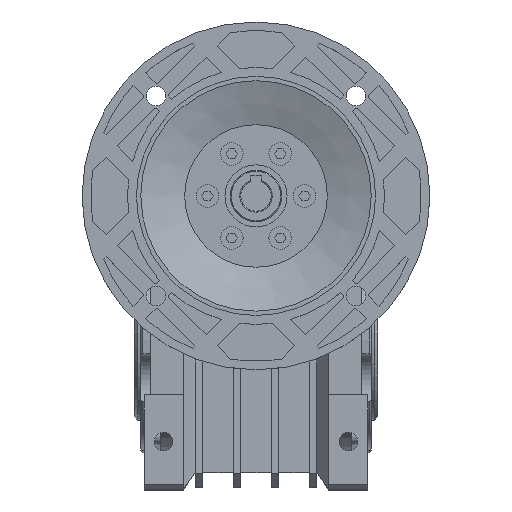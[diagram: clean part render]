
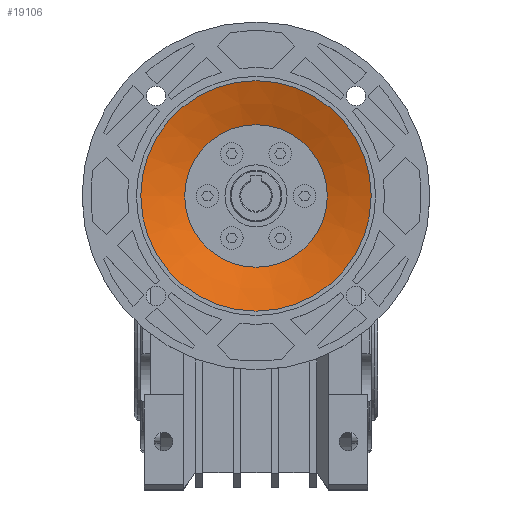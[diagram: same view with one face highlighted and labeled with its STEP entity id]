
A CAD part, top view. The second image highlights one B-rep face of the part: STEP entity #19106.
In plain terms, the highlighted conical face has half-angle 70.638 degrees and reference radius 32.795 mm.
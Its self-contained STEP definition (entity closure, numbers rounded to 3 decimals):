
#114=CONICAL_SURFACE('',#20838,32.795,1.233);
#1888=LINE('',#31561,#3681);
#3681=VECTOR('',#26020,32.795);
#5193=FACE_OUTER_BOUND('',#6367,.T.);
#6367=EDGE_LOOP('',(#16407,#16408,#16409,#16410));
#7077=CIRCLE('',#20825,53.);
#7084=CIRCLE('',#20839,32.795);
#8766=VERTEX_POINT('',#31533);
#8773=VERTEX_POINT('',#31559);
#11313=EDGE_CURVE('',#8766,#8766,#7077,.T.);
#11325=EDGE_CURVE('',#8773,#8773,#7084,.T.);
#11326=EDGE_CURVE('',#8773,#8766,#1888,.T.);
#16407=ORIENTED_EDGE('',*,*,#11325,.T.);
#16408=ORIENTED_EDGE('',*,*,#11326,.T.);
#16409=ORIENTED_EDGE('',*,*,#11313,.F.);
#16410=ORIENTED_EDGE('',*,*,#11326,.F.);
#19106=ADVANCED_FACE('',(#5193),#114,.F.);
#20825=AXIS2_PLACEMENT_3D('',#31534,#25985,#25986);
#20838=AXIS2_PLACEMENT_3D('',#31558,#26016,#26017);
#20839=AXIS2_PLACEMENT_3D('',#31560,#26018,#26019);
#25985=DIRECTION('center_axis',(0.,0.,
-1.));
#25986=DIRECTION('ref_axis',(-1.,0.,0.));
#26016=DIRECTION('center_axis',(0.,0.,
1.));
#26017=DIRECTION('ref_axis',(1.,0.,0.));
#26018=DIRECTION('center_axis',(0.,0.,
-1.));
#26019=DIRECTION('ref_axis',(-1.,0.,0.));
#26020=DIRECTION('',(-0.943,0.,0.332));
#31533=CARTESIAN_POINT('',(274.449,147.109,248.44));
#31534=CARTESIAN_POINT('Origin',(327.449,147.109,248.44));
#31558=CARTESIAN_POINT('Origin',(327.449,147.109,241.34));
#31559=CARTESIAN_POINT('',(294.654,147.109,241.34));
#31560=CARTESIAN_POINT('Origin',(327.449,147.109,241.34));
#31561=CARTESIAN_POINT('',(294.654,147.109,241.34));
